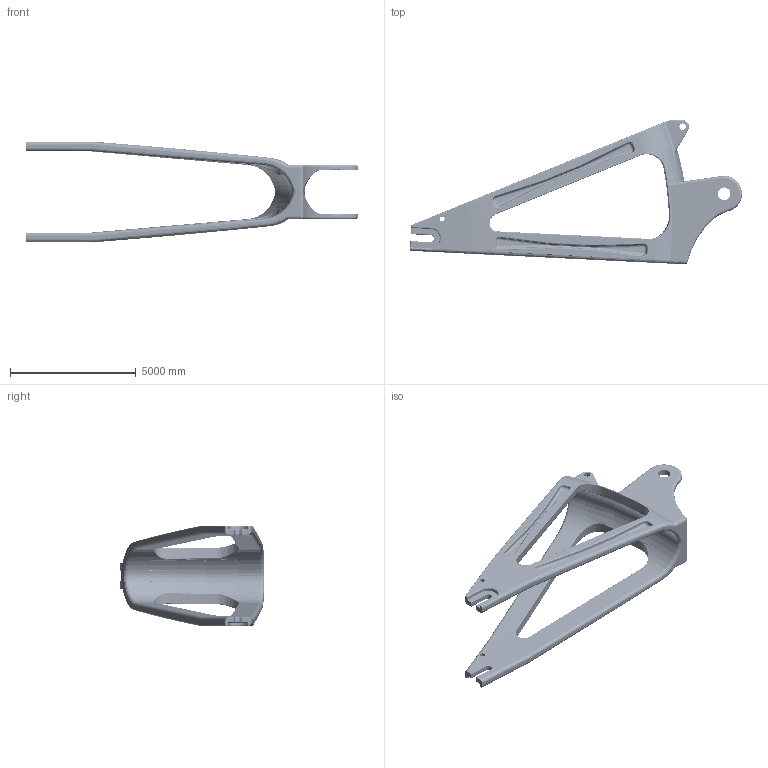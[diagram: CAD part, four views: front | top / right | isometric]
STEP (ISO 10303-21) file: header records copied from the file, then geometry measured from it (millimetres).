
FILE_DESCRIPTION((''),'2;1');
FILE_NAME('FOURCHE22','2013-07-23T',('toto'),(''),'PRO/ENGINEER BY PARAMETRIC TECHNOLOGY CORPORATION, 2008090','PRO/ENGINEER BY PARAMETRIC TECHNOLOGY CORPORATION, 2008090','');
FILE_SCHEMA(('CONFIG_CONTROL_DESIGN'));
Products named in the file (1): FOURCHE22
Bounding box: 13200.62 x 5750.86 x 4013.22 mm (x, y, z)
Volume: 21319116813.5 mm3; surface area: 155049781.3 mm2
Topology: 1 solids, 3 shells, 51774 faces, 77661 edges, 25877 vertices
Faces by surface type: plane 51774
Entity records: 440121 total; most frequent: DIRECTION 103550, CARTESIAN_POINT 77652, AXIS2_PLACEMENT_3D 51775, POLY_LOOP 51774, FACE_OUTER_BOUND 51774, PLANE 51774, FACE_SURFACE 51774, PERSON_AND_ORGANIZATION_ROLE 4
